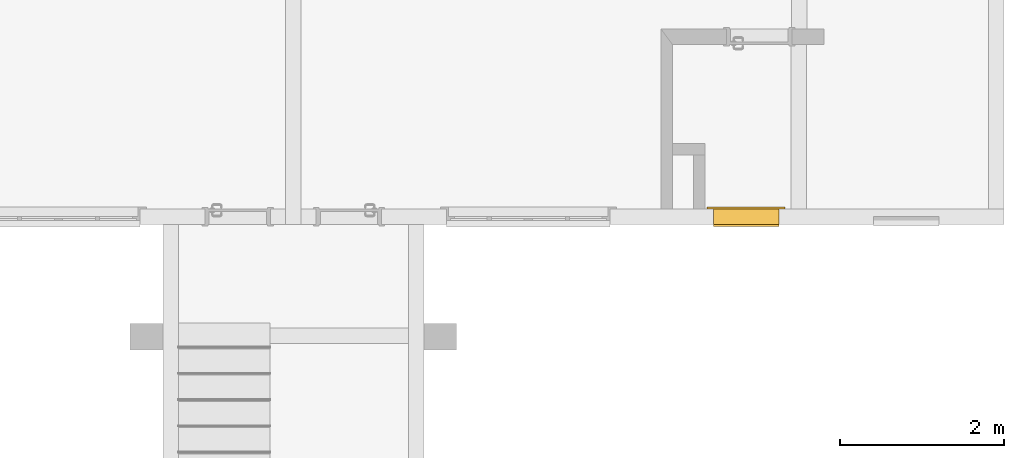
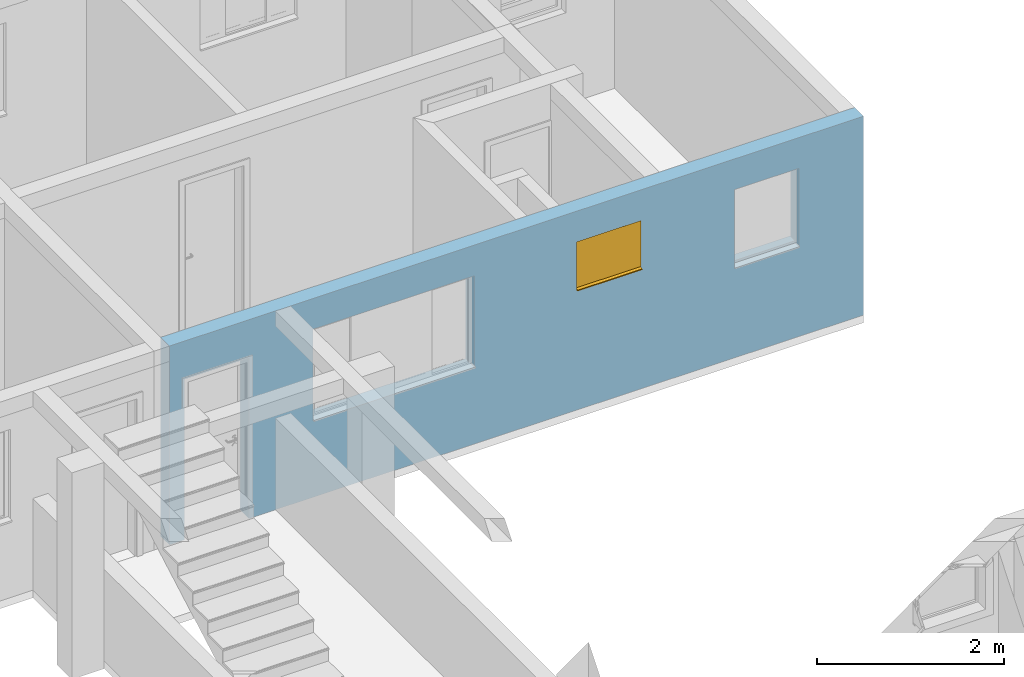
# One storey, part 28 of 43: 1 window, 4 openings, plus 1 element that does not belong to this part.
"""IFC2X3 building model written with IfcOpenShell, lengths in millimetres."""

from ifc_helpers import new_model, entity, si_unit, converted_unit, derived_unit, money_unit, direction, frame, origin_with_axes, origin_2d_with_axis, place, context, subcontext, project, spatial, polyline, rectangle, outline, extrude, open_shell, faceted_brep, surface_model, source, transform, mapped, material, layer, layer_set, layer_usage, type_object, element, fill, save


model = new_model("IFC2X3")

# Units and contexts
model_context = context("Model", 3, precision=0.01, world=origin_with_axes(), true_north=direction((0.0, 1.0)))
body_context = subcontext(model_context, "Body", "Model", "MODEL_VIEW")
ifc_project = project(units=[si_unit("LENGTHUNIT", "METRE", prefix="MILLI"), si_unit("AREAUNIT", "SQUARE_METRE"), si_unit("VOLUMEUNIT", "CUBIC_METRE"), converted_unit("PLANEANGLEUNIT", "DEGREE", entity("IfcPlaneAngleMeasure", 0.0174532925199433), si_unit("PLANEANGLEUNIT", "RADIAN"), dimensions=[0, 0, 0, 0, 0, 0, 0]), money_unit("USD"), converted_unit("TIMEUNIT", "Year", entity("IfcTimeMeasure", 31557600.0), si_unit("TIMEUNIT", "SECOND"), dimensions=[0, 0, 1, 0, 0, 0, 0]), si_unit("MASSUNIT", "GRAM", prefix="KILO"), si_unit("THERMODYNAMICTEMPERATUREUNIT", "DEGREE_CELSIUS"), si_unit("LUMINOUSINTENSITYUNIT", "LUMEN"), si_unit("ENERGYUNIT", "JOULE", prefix="MEGA"), derived_unit("THERMALCONDUCTANCEUNIT", [(si_unit("POWERUNIT", "WATT"), 1), (si_unit("LENGTHUNIT", "METRE"), -1), (si_unit("THERMODYNAMICTEMPERATUREUNIT", "KELVIN"), -1)]), derived_unit("SPECIFICHEATCAPACITYUNIT", [(si_unit("ENERGYUNIT", "JOULE"), 1), (si_unit("MASSUNIT", "GRAM", prefix="KILO"), -1), (si_unit("THERMODYNAMICTEMPERATUREUNIT", "KELVIN"), -1)]), derived_unit("MASSDENSITYUNIT", [(si_unit("MASSUNIT", "GRAM", prefix="KILO"), 1), (si_unit("VOLUMEUNIT", "CUBIC_METRE"), -1)])], contexts=[model_context])

# Site, building, storey
site_placement = place(None, origin_with_axes())
site = spatial("IfcSite", under=ifc_project, at=site_placement, Name="Local", CompositionType="ELEMENT")
building_placement = place(site_placement, origin_with_axes())
building = spatial("IfcBuilding", under=site, at=building_placement, Name="Construção", CompositionType="ELEMENT")
storey_placement = place(building_placement, origin_with_axes())
storey = spatial("IfcBuildingStorey", under=building, at=storey_placement, Name="Pavimento Tipo", CompositionType="ELEMENT", Elevation=0.0)

# Wall, openings, window
ifc_material = material(Name="Concreto - Estrutural")
ifc_layer = layer(ifc_material, 190.0, ventilated="UNKNOWN")
ifc_layer_set = layer_set([ifc_layer], Name="Concreto - Estrutural 190")
ifc_layer_usage = layer_usage(ifc_layer_set, "AXIS2", "POSITIVE", 0.0)
wall_type = type_object("IfcWallType", Name="Concreto - Estrutural 190", PredefinedType="NOTDEFINED")
wall_placement = place(storey_placement, frame((72476.96486497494, 5832.461520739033, 0.0), z_axis=(0.0, 0.0, 1.0), x_axis=(-1.0, 0.0, 0.0)))
wall = element("IfcWallStandardCase", 1, at=wall_placement, inside=storey, type_object=wall_type, material=ifc_layer_usage, Name="Apartamento 1 - Parede-001", context=body_context, shape_type="SweptSolid", body=[
    extrude(outline(polyline([(0.0, 0.0), (8584.765133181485, 0.0), (8584.765133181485, 190.0000000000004), (0.0, 190.0000000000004), (0.0, 0.0)])), origin_with_axes(), (0.0, 0.0, 1.0), 2600.0),
])
opening_1_placement = place(wall_placement, frame((1195.000000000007, 0.0, 1200.0), z_axis=(0.0, 0.0, 1.0), x_axis=(1.0, 0.0, 0.0)))
element("IfcOpeningElement", 2, at=opening_1_placement, cuts=wall, Name="Apartamento 1 - J03", context=body_context, shape_type="SweptSolid", body=[
    extrude(rectangle(XDim=800.0000000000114, YDim=1000.0, at=origin_2d_with_axis()), frame((0.0, 139.9999999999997, 500.0), z_axis=(0.0, -1.0, 0.0), x_axis=(-1.0, 0.0, 0.0)), (0.0, 0.0, 1.0), 330.0),
    extrude(rectangle(XDim=800.0000000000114, YDim=1000.0, at=origin_2d_with_axis()), frame((0.0, 139.9999999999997, 500.0), z_axis=(0.0, 1.0, 0.0), x_axis=(-1.0, 0.0, 0.0)), (0.0, 0.0, 1.0), 240.0),
    extrude(rectangle(XDim=800.0000000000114, YDim=30.00000000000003, at=origin_2d_with_axis()), frame((0.0, 104.9999999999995, -14.9999999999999), z_axis=(0.0, 1.0, 0.0), x_axis=(-1.0, 0.0, 0.0)), (0.0, 0.0, 1.0), 225.0),
])
opening_2_placement = place(wall_placement, frame((3149.999999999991, 0.0, 1600.0), z_axis=(0.0, 0.0, 1.0), x_axis=(1.0, 0.0, 0.0)))
opening_2 = element("IfcOpeningElement", 3, at=opening_2_placement, cuts=wall, Name="Apartamento 1 - J02", context=body_context, shape_type="SweptSolid", body=[
    extrude(rectangle(XDim=800.0000000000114, YDim=600.0000000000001, at=origin_2d_with_axis()), frame((0.0, -190.0000000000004, 300.0000000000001), z_axis=(0.0, -1.0, 0.0), x_axis=(-1.0, 0.0, 0.0)), (0.0, 0.0, -1.0), 570.0000000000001),
    extrude(rectangle(XDim=800.0000000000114, YDim=30.00000000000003, at=origin_2d_with_axis()), frame((0.0, 155.0000000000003, -14.9999999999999), z_axis=(0.0, 1.0, 0.0), x_axis=(-1.0, 0.0, 0.0)), (0.0, 0.0, 1.0), 225.0),
    extrude(rectangle(XDim=949.9999999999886, YDim=750.0000000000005, at=origin_2d_with_axis()), frame((0.0, 0.0, 300.0000000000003), z_axis=(0.0, -1.0, 0.0), x_axis=(-1.0, 0.0, 0.0)), (0.0, 0.0, 1.0), 190.0),
])
opening_3_placement = place(wall_placement, frame((5810.000000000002, 0.0, 1000.0), z_axis=(0.0, 0.0, 1.0), x_axis=(1.0, 0.0, 0.0)))
element("IfcOpeningElement", 4, at=opening_3_placement, cuts=wall, Name="Apartamento 1 - J01", context=body_context, shape_type="SweptSolid", body=[
    extrude(rectangle(XDim=2000.0, YDim=1200.0, at=origin_2d_with_axis()), frame((0.0, 139.9999999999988, 600.0000000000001), z_axis=(0.0, 1.0, 0.0), x_axis=(1.0, 0.0, 0.0)), (0.0, 0.0, -1.0), 330.0),
    extrude(rectangle(XDim=2000.0, YDim=1200.0, at=origin_2d_with_axis()), frame((0.0, 139.9999999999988, 600.0000000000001), z_axis=(0.0, -1.0, 0.0), x_axis=(1.0, 0.0, 0.0)), (0.0, 0.0, -1.0), 240.0),
    extrude(rectangle(XDim=2150.000000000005, YDim=1350.0, at=origin_2d_with_axis()), frame((0.0, 0.0, 599.9999999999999), z_axis=(0.0, 1.0, 0.0), x_axis=(1.0, 0.0, 0.0)), (0.0, 0.0, -1.0), 240.0),
])
opening_4_placement = place(wall_placement, frame((8000.0, 0.0, 0.0), z_axis=(0.0, 0.0, 1.0), x_axis=(1.0, 0.0, 0.0)))
element("IfcOpeningElement", 5, at=opening_4_placement, cuts=wall, Name="Apartamento 1 - P01", context=body_context, shape_type="SweptSolid", body=[
    extrude(rectangle(XDim=800.0000000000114, YDim=2100.0, at=origin_2d_with_axis()), frame((0.0, -190.0000000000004, 1050.0), z_axis=(0.0, -1.0, 0.0), x_axis=(1.0, 0.0, 0.0)), (0.0, 0.0, -1.0), 570.0000000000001),
    extrude(rectangle(XDim=870.0000000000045, YDim=2135.0, at=origin_2d_with_axis()), frame((0.0, 0.0, 1067.5), z_axis=(0.0, -1.0, 0.0), x_axis=(1.0, 0.0, 0.0)), (0.0, 0.0, 1.0), 190.0),
    extrude(rectangle(XDim=870.0000000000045, YDim=2135.0, at=origin_2d_with_axis()), frame((0.0, 189.9999999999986, 1067.5), z_axis=(0.0, 1.0, 0.0), x_axis=(1.0, 0.0, 0.0)), (0.0, 0.0, 1.0), 190.0),
])
window_style = type_object("IfcWindowStyle", Name="Janela 27", ConstructionType="NOTDEFINED", OperationType="SINGLE_PANEL", ParameterTakesPrecedence=False, Sizeable=False)
shared_shape = source(origin_with_axes(), body_context, "Body", "SurfaceModel", [
    faceted_brep([(400.0, -34.99999999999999, 0.0), (400.0, -24.99999999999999, 0.0), (-400.0, -24.99999999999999, 0.0), (-400.0, -34.99999999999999, 0.0), (400.0, -34.99999999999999, -30.0), (400.0, 25.0, -30.0), (400.0, 25.0, -17.02704173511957), (400.0, -24.99999999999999, -10.0), (-400.0, -24.99999999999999, -9.999999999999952), (-400.0, 25.0, -17.02704173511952), (-400.0, 25.0, -29.99999999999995), (-400.0, -34.99999999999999, -29.99999999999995)], [[[0, 1, 2, 3]], [[0, 4, 5, 6, 7, 1]], [[1, 7, 8, 2]], [[3, 2, 8, 9, 10, 11]], [[4, 0, 3, 11]], [[5, 4, 11, 10]], [[6, 5, 10, 9]], [[7, 6, 9, 8]]]),
    faceted_brep([(400.0, -49.99999999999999, 0.0), (400.0, -190.0, 0.0), (-400.0, -190.0, 0.0), (-400.0, -49.99999999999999, 0.0), (400.0, -50.00000000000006, 600.0), (400.0, -190.0000000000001, 600.0), (-400.0, -190.0000000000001, 600.0), (375.0, -190.0, 24.99999999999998), (-375.0, -190.0, 24.99999999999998), (-375.0, -190.0000000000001, 575.0), (375.0, -190.0000000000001, 575.0), (-400.0, -50.00000000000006, 600.0), (375.0, -49.99999999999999, 24.99999999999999), (375.0, -50.00000000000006, 575.0), (-375.0, -50.00000000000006, 575.0), (-375.0, -49.99999999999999, 24.99999999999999)], [[[0, 1, 2, 3]], [[4, 5, 1, 0]], [[1, 5, 6, 2], [7, 8, 9, 10]], [[3, 2, 6, 11]], [[0, 3, 11, 4], [12, 13, 14, 15]], [[11, 6, 5, 4]], [[15, 8, 7, 12]], [[14, 9, 8, 15]], [[13, 10, 9, 14]], [[12, 7, 10, 13]]]),
    faceted_brep([(475.0, -215.0, -75.00000000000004), (375.0, -215.0, 24.99999999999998), (375.0, -190.0, 24.99999999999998), (475.0, -190.0, -75.00000000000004), (475.0, -215.0000000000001, 675.0), (375.0, -215.0000000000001, 575.0), (375.0, -190.0000000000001, 575.0), (475.0, -190.0000000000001, 675.0)], [[[0, 1, 2, 3]], [[0, 4, 5, 1]], [[1, 5, 6, 2]], [[3, 2, 6, 7]], [[4, 0, 3, 7]], [[5, 4, 7, 6]]]),
    faceted_brep([(-475.0, -215.0000000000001, 675.0), (-375.0, -215.0000000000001, 575.0), (-375.0, -190.0000000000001, 575.0), (-475.0, -190.0000000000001, 675.0), (-475.0, -215.0, -75.00000000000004), (-375.0, -215.0, 24.99999999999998), (-375.0, -190.0, 24.99999999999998), (-475.0, -190.0, -75.00000000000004)], [[[0, 1, 2, 3]], [[0, 4, 5, 1]], [[1, 5, 6, 2]], [[3, 2, 6, 7]], [[4, 0, 3, 7]], [[5, 4, 7, 6]]]),
    faceted_brep([(-475.0, -215.0, -75.00000000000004), (-375.0, -215.0, 24.99999999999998), (-375.0, -190.0, 24.99999999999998), (-475.0, -190.0, -75.00000000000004), (475.0, -215.0, -75.00000000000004), (375.0, -215.0, 24.99999999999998), (375.0, -190.0, 24.99999999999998), (475.0, -190.0, -75.00000000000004)], [[[0, 1, 2, 3]], [[0, 4, 5, 1]], [[1, 5, 6, 2]], [[3, 2, 6, 7]], [[4, 0, 3, 7]], [[5, 4, 7, 6]]]),
    faceted_brep([(475.0, -215.0000000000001, 674.9999999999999), (375.0, -215.0000000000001, 575.0), (375.0, -190.0000000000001, 575.0), (475.0, -190.0000000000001, 674.9999999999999), (-475.0, -215.0000000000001, 674.9999999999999), (-375.0, -215.0000000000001, 575.0), (-375.0, -190.0000000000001, 575.0), (-475.0, -190.0000000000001, 674.9999999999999)], [[[0, 1, 2, 3]], [[0, 4, 5, 1]], [[1, 5, 6, 2]], [[3, 2, 6, 7]], [[4, 0, 3, 7]], [[5, 4, 7, 6]]]),
    faceted_brep([(373.0000000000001, 0.0, 552.9999999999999), (373.0000000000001, -20.00000000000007, 552.9999999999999), (353.0000000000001, -20.00000000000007, 552.9999999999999), (353.0000000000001, -50.00000000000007, 552.9999999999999), (400.0, -50.00000000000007, 552.9999999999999), (400.0, 0.0, 552.9999999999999), (373.0000000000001, 0.0, 46.99999999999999), (373.0000000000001, -20.00000000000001, 47.00000000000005), (353.0000000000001, -20.00000000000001, 46.99999999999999), (353.0000000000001, -50.00000000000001, 46.99999999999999), (400.0, -50.00000000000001, 46.99999999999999), (400.0, 0.0, 46.99999999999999)], [[[0, 1, 2, 3, 4, 5]], [[1, 0, 6, 7]], [[8, 2, 1, 7]], [[2, 8, 9, 3]], [[4, 3, 9, 10]], [[5, 4, 10, 11]], [[6, 0, 5, 11]], [[7, 6, 11, 10, 9, 8]]]),
    faceted_brep([(-353.0000000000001, -20.00000000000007, 552.9999999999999), (-373.0000000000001, -20.00000000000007, 552.9999999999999), (-373.0000000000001, 0.0, 552.9999999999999), (-400.0, 0.0, 552.9999999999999), (-400.0, -50.00000000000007, 552.9999999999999), (-353.0000000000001, -50.00000000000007, 552.9999999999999), (-353.0000000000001, -20.00000000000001, 46.99999999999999), (-373.0000000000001, -20.00000000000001, 46.99999999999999), (-373.0000000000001, 0.0, 46.99999999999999), (-400.0, 0.0, 46.99999999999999), (-400.0, -50.00000000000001, 46.99999999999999), (-353.0000000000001, -50.00000000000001, 46.99999999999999)], [[[0, 1, 2, 3, 4, 5]], [[1, 0, 6, 7]], [[8, 2, 1, 7]], [[2, 8, 9, 3]], [[9, 10, 4, 3]], [[10, 11, 5, 4]], [[6, 0, 5, 11]], [[7, 6, 11, 10, 9, 8]]]),
    faceted_brep([(-353.0000000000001, -20.00000000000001, 46.99999999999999), (-373.0000000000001, -20.00000000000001, 46.99999999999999), (-373.0000000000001, 0.0, 46.99999999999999), (-400.0, 0.0, 46.99999999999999), (-400.0, -50.00000000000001, 46.99999999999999), (-353.0000000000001, -50.00000000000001, 46.99999999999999), (353.0000000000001, -20.00000000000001, 46.99999999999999), (373.0000000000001, -20.00000000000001, 47.00000000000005), (373.0000000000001, -20.0, 27.00000000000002), (-373.0000000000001, -20.0, 27.00000000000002), (-373.0000000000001, 0.0, 27.00000000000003), (373.0000000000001, 0.0, 27.00000000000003), (373.0000000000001, 0.0, 46.99999999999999), (400.0, 0.0, 46.99999999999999), (400.0, 0.0, 0.0), (-400.0, 0.0, 0.0), (-400.0, -50.0, 0.0), (400.0, -50.00000000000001, 46.99999999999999), (353.0000000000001, -50.00000000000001, 46.99999999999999), (400.0, -50.0, 0.0)], [[[0, 1, 2, 3, 4, 5]], [[1, 0, 6, 7, 8, 9]], [[10, 2, 1, 9]], [[11, 12, 13, 14, 15, 3, 2, 10]], [[15, 16, 4, 3]], [[17, 18, 5, 4, 16, 19]], [[6, 0, 5, 18]], [[7, 6, 18, 17, 13, 12]], [[7, 12, 11, 8]], [[11, 10, 9, 8]], [[13, 17, 19, 14]], [[14, 19, 16, 15]]]),
    faceted_brep([(373.0000000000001, 0.0, 552.9999999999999), (373.0000000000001, 0.0, 573.0), (-373.0000000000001, 0.0, 573.0), (-373.0000000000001, 0.0, 552.9999999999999), (-400.0, 0.0, 552.9999999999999), (-400.0, 0.0, 600.0), (400.0, 0.0, 600.0), (400.0, 0.0, 552.9999999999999), (373.0000000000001, -20.00000000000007, 552.9999999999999), (373.0000000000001, -20.00000000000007, 573.0), (-373.0000000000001, -20.00000000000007, 573.0), (-373.0000000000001, -20.00000000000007, 552.9999999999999), (-353.0000000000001, -20.00000000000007, 552.9999999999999), (-353.0000000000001, -50.00000000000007, 552.9999999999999), (-400.0, -50.00000000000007, 552.9999999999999), (-400.0, -50.00000000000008, 600.0), (400.0, -50.00000000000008, 600.0), (400.0, -50.00000000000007, 552.9999999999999), (353.0000000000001, -50.00000000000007, 552.9999999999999), (353.0000000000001, -20.00000000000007, 552.9999999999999)], [[[0, 1, 2, 3, 4, 5, 6, 7]], [[1, 0, 8, 9]], [[2, 1, 9, 10]], [[3, 2, 10, 11]], [[11, 12, 13, 14, 4, 3]], [[4, 14, 15, 5]], [[5, 15, 16, 6]], [[6, 16, 17, 7]], [[8, 0, 7, 17, 18, 19]], [[12, 11, 10, 9, 8, 19]], [[12, 19, 18, 13]], [[14, 13, 18, 17, 16, 15]]]),
    faceted_brep([(323.0000000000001, -20.00000000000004, 522.9999999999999), (373.0000000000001, -20.00000000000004, 522.9999999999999), (373.0000000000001, 0.0, 522.9999999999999), (323.0000000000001, 0.0, 522.9999999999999), (323.0000000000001, -19.99999999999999, 77.00000000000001), (373.0000000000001, -19.99999999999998, 77.00000000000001), (373.0000000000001, 0.0, 77.00000000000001), (323.0000000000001, 0.0, 77.00000000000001)], [[[0, 1, 2, 3]], [[0, 4, 5, 1]], [[1, 5, 6, 2]], [[3, 2, 6, 7]], [[4, 0, 3, 7]], [[5, 4, 7, 6]]]),
    faceted_brep([(-323.0000000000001, -20.00000000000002, 77.00000000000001), (-373.0000000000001, -20.00000000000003, 77.00000000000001), (-373.0000000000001, 0.0, 77.00000000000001), (-323.0000000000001, 0.0, 77.00000000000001), (-323.0000000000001, -20.00000000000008, 522.9999999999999), (-373.0000000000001, -20.00000000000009, 522.9999999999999), (-373.0000000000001, 0.0, 522.9999999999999), (-323.0000000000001, 0.0, 522.9999999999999)], [[[0, 1, 2, 3]], [[0, 4, 5, 1]], [[1, 5, 6, 2]], [[3, 2, 6, 7]], [[4, 0, 3, 7]], [[5, 4, 7, 6]]]),
    faceted_brep([(-373.0000000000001, -20.00000000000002, 27.0), (-373.0000000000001, -20.00000000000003, 77.00000000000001), (-373.0000000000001, 0.0, 77.00000000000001), (-373.0000000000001, 0.0, 27.00000000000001), (373.0000000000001, -19.99999999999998, 27.0), (373.0000000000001, -19.99999999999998, 77.00000000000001), (323.0000000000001, -19.99999999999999, 77.00000000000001), (-323.0000000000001, -20.00000000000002, 77.00000000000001), (-323.0000000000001, 0.0, 77.00000000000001), (323.0000000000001, 0.0, 77.00000000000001), (373.0000000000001, 0.0, 77.00000000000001), (373.0000000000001, 0.0, 27.00000000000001)], [[[0, 1, 2, 3]], [[0, 4, 5, 6, 7, 1]], [[1, 7, 8, 2]], [[3, 2, 8, 9, 10, 11]], [[4, 0, 3, 11]], [[5, 4, 11, 10]], [[6, 5, 10, 9]], [[7, 6, 9, 8]]]),
    faceted_brep([(373.0000000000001, -20.00000000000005, 573.0), (373.0000000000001, -20.00000000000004, 522.9999999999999), (373.0000000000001, 0.0, 522.9999999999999), (373.0000000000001, 0.0, 573.0), (-373.0000000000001, -20.00000000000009, 573.0), (-373.0000000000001, -20.00000000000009, 522.9999999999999), (-323.0000000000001, -20.00000000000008, 522.9999999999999), (323.0000000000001, -20.00000000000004, 522.9999999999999), (323.0000000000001, 0.0, 522.9999999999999), (-323.0000000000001, 0.0, 522.9999999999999), (-373.0000000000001, 0.0, 522.9999999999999), (-373.0000000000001, 0.0, 573.0)], [[[0, 1, 2, 3]], [[0, 4, 5, 6, 7, 1]], [[1, 7, 8, 2]], [[3, 2, 8, 9, 10, 11]], [[4, 0, 3, 11]], [[5, 4, 11, 10]], [[6, 5, 10, 9]], [[7, 6, 9, 8]]]),
    surface_model("IfcShellBasedSurfaceModel", [(323.0000000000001, -20.00000000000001, 77.00000000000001), (323.0000000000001, -20.00000000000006, 522.9999999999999), (-323.0000000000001, -20.00000000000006, 522.9999999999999), (-323.0000000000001, -20.00000000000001, 77.00000000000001)], [open_shell([[[0, 1, 2, 3]]])]),
    surface_model("IfcShellBasedSurfaceModel", [(323.0000000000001, 0.0, 77.00000000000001), (-323.0000000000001, 0.0, 77.00000000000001), (-323.0000000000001, 0.0, 522.9999999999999), (323.0000000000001, 0.0, 522.9999999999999)], [open_shell([[[0, 1, 2, 3]]])]),
])
window_placement = place(opening_2_placement, frame((-400.0000000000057, 0.0, 0.0), z_axis=(0.0, 0.0, 1.0), x_axis=(1.0, 0.0, 0.0)))
window = element("IfcWindow", 6, at=window_placement, inside=storey, type_object=window_style, Name="Apartamento 1 - J02", ObjectType="WINDOW", OverallHeight=600.0, OverallWidth=800.0, context=body_context, shape_type="MappedRepresentation", body=[
    mapped(shared_shape, transform((400.0000000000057, 190.0000000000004, 0.0))),
])
fill(opening_2, window)

save(model, "model.ifc")
